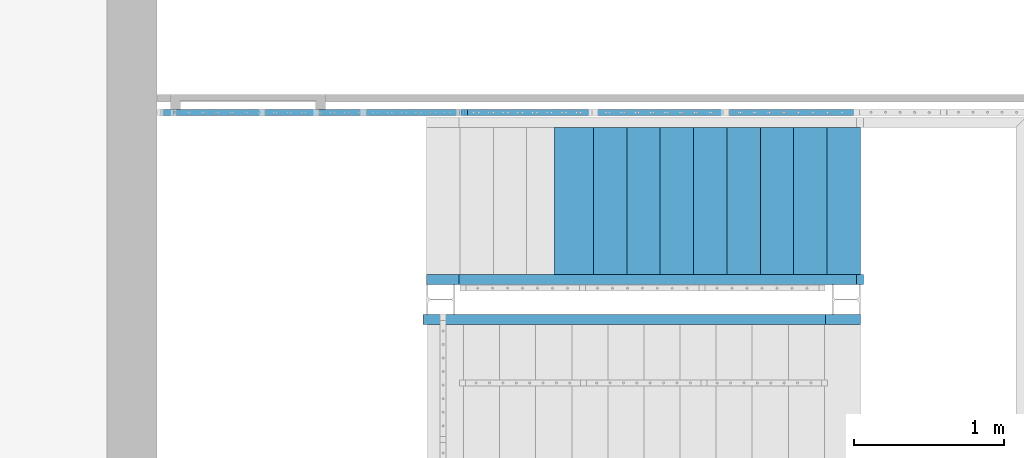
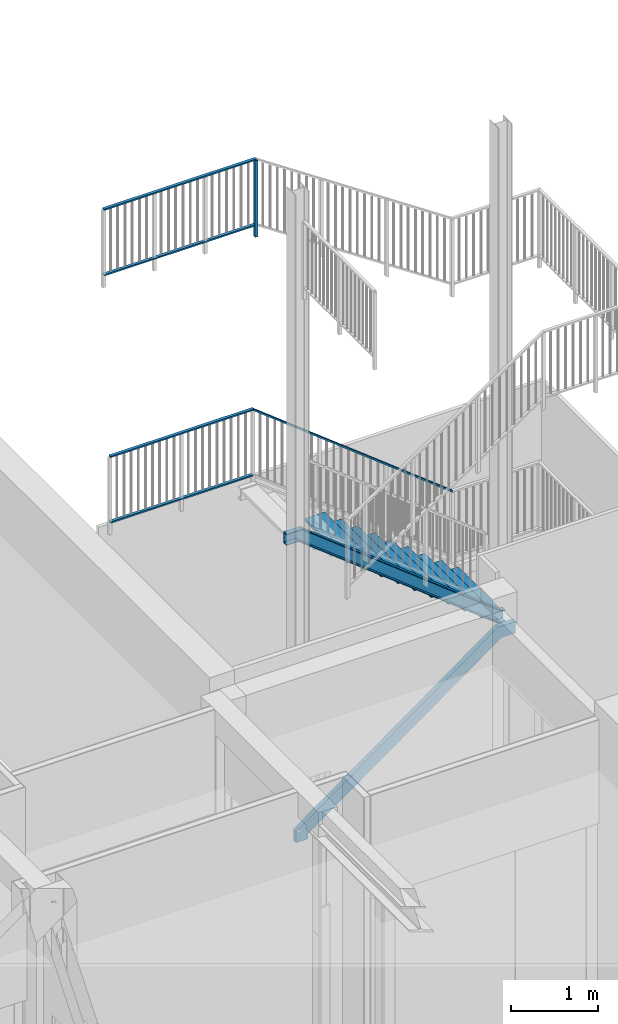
# One storey, part 61 of 135: 17 members, 4 elements without a shape of their own.
"""IFC2X3 building model written with IfcOpenShell, lengths in millimetres."""

from ifc_helpers import new_model, entity, si_unit, converted_unit, derived_unit, money_unit, direction, frame, origin_with_axes, place, context, subcontext, project, spatial, faceted_brep, material, type_object, element, aggregate, save


model = new_model("IFC2X3")

# Units and contexts
model_context = context("Model", 3, precision=0.01, world=origin_with_axes(), true_north=direction((0.0, 1.0)))
body_context = subcontext(model_context, "Body", "Model", "MODEL_VIEW")
ifc_project = project(units=[si_unit("LENGTHUNIT", "METRE", prefix="MILLI"), si_unit("AREAUNIT", "SQUARE_METRE"), si_unit("VOLUMEUNIT", "CUBIC_METRE"), converted_unit("PLANEANGLEUNIT", "DEGREE", entity("IfcPlaneAngleMeasure", 0.0174532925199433), si_unit("PLANEANGLEUNIT", "RADIAN"), dimensions=[0, 0, 0, 0, 0, 0, 0]), money_unit("EUR"), converted_unit("TIMEUNIT", "Year", entity("IfcTimeMeasure", 31557600.0), si_unit("TIMEUNIT", "SECOND"), dimensions=[0, 0, 1, 0, 0, 0, 0]), si_unit("MASSUNIT", "GRAM", prefix="KILO"), si_unit("THERMODYNAMICTEMPERATUREUNIT", "DEGREE_CELSIUS"), si_unit("LUMINOUSINTENSITYUNIT", "LUMEN"), si_unit("ENERGYUNIT", "JOULE", prefix="MEGA"), derived_unit("THERMALCONDUCTANCEUNIT", [(si_unit("POWERUNIT", "WATT"), 1), (si_unit("LENGTHUNIT", "METRE"), -1), (si_unit("THERMODYNAMICTEMPERATUREUNIT", "KELVIN"), -1)]), derived_unit("SPECIFICHEATCAPACITYUNIT", [(si_unit("ENERGYUNIT", "JOULE"), 1), (si_unit("MASSUNIT", "GRAM", prefix="KILO"), -1), (si_unit("THERMODYNAMICTEMPERATUREUNIT", "KELVIN"), -1)]), derived_unit("MASSDENSITYUNIT", [(si_unit("MASSUNIT", "GRAM", prefix="KILO"), 1), (si_unit("VOLUMEUNIT", "CUBIC_METRE"), -1)])], contexts=[model_context])

# Site, building, storey
site_placement = place(None, origin_with_axes())
site = spatial("IfcSite", under=ifc_project, at=site_placement, Name="Site", CompositionType="ELEMENT")
building_placement = place(site_placement, origin_with_axes())
building = spatial("IfcBuilding", under=site, at=building_placement, Name="Naam gebouw", CompositionType="ELEMENT")
storey_placement = place(building_placement, origin_with_axes())
storey = spatial("IfcBuildingStorey", under=building, at=storey_placement, Name="Begane grond N", CompositionType="ELEMENT", Elevation=0.0)

# Railing, member
railing_type = type_object("IfcRailingType", Name="Railing Type", PredefinedType="NOTDEFINED")
railing_1_placement = place(storey_placement, frame((56236.62159597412, 21185.9124251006, 4176.0), z_axis=(0.0, 0.0, 1.0), x_axis=(1.0, 0.0, 0.0)))
railing_1 = element("IfcRailing", 1, at=railing_1_placement, inside=storey, type_object=railing_type, Name="_Reling-x", PredefinedType="NOTDEFINED")
ifc_material = material(Name="Metaal - Staal C")
member_type_1 = type_object("IfcMemberType", Name="IfcMember", PredefinedType="POST")
member_1_placement = place(railing_1_placement, frame((140.3928651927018, 2465.000000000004, 3386.724729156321), z_axis=(0.0, 0.0, 1.0), x_axis=(1.0, 0.0, 0.0)))
member_1 = element("IfcMember", 2, at=member_1_placement, type_object=member_type_1, material=ifc_material, Name="_Hoofdbaluster-x", ObjectType="POST", context=body_context, shape_type="Brep", body=[
    faceted_brep([(-20.00000000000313, 19.99999999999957, 6.090823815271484), (-20.00000000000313, -19.99999999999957, 6.090823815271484), (-20.00000000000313, -19.99999999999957, 1086.090823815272), (-20.00000000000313, 19.99999999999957, 1086.090823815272), (20.00000000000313, 19.99999999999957, -6.090823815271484), (20.00000000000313, -19.99999999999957, -6.090823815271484), (20.00000000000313, -19.99999999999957, 1073.909176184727), (20.00000000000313, 19.99999999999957, 1073.909176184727)], [[[0, 1, 2, 3]], [[0, 4, 5, 1]], [[1, 5, 6, 2]], [[3, 2, 6, 7]], [[4, 0, 3, 7]], [[5, 4, 7, 6]]]),
])

# Railing, members
railing_2_placement = place(storey_placement, frame((56236.62159597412, 21185.9124251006, 157.4646725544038), z_axis=(0.0, 0.0, 1.0), x_axis=(1.0, 0.0, 0.0)))
railing_2 = element("IfcRailing", 3, at=railing_2_placement, inside=storey, type_object=railing_type, Name="_Reling-x", PredefinedType="NOTDEFINED")
member_type_2 = type_object("IfcMemberType", Name="IfcMember", PredefinedType="USERDEFINED")
member_2_placement = place(railing_2_placement, frame((1425.16642625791, 2465.000000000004, 2901.924667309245), z_axis=(0.0, 0.0, 1.0), x_axis=(1.0, 0.0, 0.0)))
member_2 = element("IfcMember", 4, at=member_2_placement, type_object=member_type_2, material=ifc_material, Name="_Bovenregel-x", context=body_context, shape_type="Brep", body=[
    faceted_brep([(1323.187295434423, 19.99999999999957, 28.28427124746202), (1316.281394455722, 19.99999999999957, 8.284271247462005), (-1330.093196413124, 19.99999999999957, 2083.238379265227), (-1323.187295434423, 19.99999999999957, 2103.238379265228), (1323.187295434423, -19.99999999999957, 28.28427124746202), (1316.281394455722, -19.99999999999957, 8.284271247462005), (-1330.093196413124, -19.99999999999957, 2083.238379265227), (-1323.187295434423, -19.99999999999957, 2103.238379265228)], [[[0, 1, 2, 3]], [[0, 4, 5, 1]], [[1, 5, 6, 2]], [[3, 2, 6, 7]], [[4, 0, 3, 7]], [[5, 4, 7, 6]]]),
])
member_3_placement = place(railing_2_placement, frame((-847.1114700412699, 2465.000000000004, 4976.878775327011), z_axis=(0.0, 0.0, 1.0), x_axis=(1.0, 0.0, 0.0)))
member_3 = element("IfcMember", 5, at=member_3_placement, type_object=member_type_2, material=ifc_material, Name="_Bovenregel-x", context=body_context, shape_type="Brep", body=[
    faceted_brep([(949.0906008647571, 19.99999999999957, 28.28427124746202), (942.1846998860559, 19.99999999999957, 8.284271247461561), (-949.09060086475, 19.99999999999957, 8.284271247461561), (-949.09060086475, 19.99999999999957, 28.28427124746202), (949.0906008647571, -19.99999999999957, 28.28427124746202), (942.1846998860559, -19.99999999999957, 8.284271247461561), (-949.09060086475, -19.99999999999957, 8.284271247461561), (-949.09060086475, -19.99999999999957, 28.28427124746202)], [[[0, 1, 2, 3]], [[0, 4, 5, 1]], [[1, 5, 6, 2]], [[3, 2, 6, 7]], [[4, 0, 3, 7]], [[5, 4, 7, 6]]]),
])
member_4_placement = place(railing_2_placement, frame((-847.1114700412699, 2465.000000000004, 4052.802366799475), z_axis=(0.0, 0.0, 1.0), x_axis=(1.0, 0.0, 0.0)))
member_4 = element("IfcMember", 6, at=member_4_placement, type_object=member_type_2, material=ifc_material, Name="_Regel-x", context=body_context, shape_type="Brep", body=[
    faceted_brep([(952.543551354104, 19.99999999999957, 32.36067977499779), (945.63765037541, 19.99999999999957, 12.36067977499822), (-949.09060086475, 19.99999999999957, 12.36067977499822), (-949.09060086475, 19.99999999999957, 32.36067977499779), (952.543551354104, -19.99999999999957, 32.36067977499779), (945.63765037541, -19.99999999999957, 12.36067977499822), (-949.09060086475, -19.99999999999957, 12.36067977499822), (-949.09060086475, -19.99999999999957, 32.36067977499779)], [[[0, 1, 2, 3]], [[0, 4, 5, 1]], [[1, 5, 6, 2]], [[3, 2, 6, 7]], [[4, 0, 3, 7]], [[5, 4, 7, 6]]]),
])
aggregate(railing_2, [member_2, member_3, member_4])

# Member
member_5_placement = place(railing_1_placement, frame((-870.7132766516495, 2465.000000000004, 4458.31572875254), z_axis=(0.0, 0.0, 1.0), x_axis=(1.0, 0.0, 0.0)))
member_5 = element("IfcMember", 7, at=member_5_placement, type_object=member_type_2, material=ifc_material, Name="_Bovenregel-x", context=body_context, shape_type="Brep", body=[
    faceted_brep([(1011.106141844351, 19.99999999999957, 28.40900040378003), (1005.015203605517, 19.99999999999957, 8.40862467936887), (-1011.10490825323, 19.99999999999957, 8.284271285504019), (-1011.106141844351, 19.99999999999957, 28.28427124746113), (1011.106141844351, -19.99999999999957, 28.40900040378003), (1005.015203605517, -19.99999999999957, 8.40862467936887), (-1011.10490825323, -19.99999999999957, 8.284271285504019), (-1011.106141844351, -19.99999999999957, 28.28427124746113)], [[[0, 1, 2, 3]], [[0, 4, 5, 1]], [[1, 5, 6, 2]], [[3, 2, 6, 7]], [[4, 0, 3, 7]], [[5, 4, 7, 6]]]),
])

member_6_placement = place(railing_1_placement, frame((-870.7132766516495, 2465.000000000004, 3534.239320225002), z_axis=(0.0, 0.0, 1.0), x_axis=(1.0, 0.0, 0.0)))
member_6 = element("IfcMember", 8, at=member_6_placement, type_object=member_type_2, material=ifc_material, Name="_Regel-x", context=body_context, shape_type="Brep", body=[
    faceted_brep([(1014.151610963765, 19.99999999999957, 32.48559679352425), (1008.060672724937, 19.99999999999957, 12.48522106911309), (-1011.105525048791, 19.99999999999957, 12.36067979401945), (-1011.106758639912, 19.99999999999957, 32.36067975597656), (1014.151610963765, -19.99999999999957, 32.48559679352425), (1008.060672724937, -19.99999999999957, 12.48522106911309), (-1011.105525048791, -19.99999999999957, 12.36067979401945), (-1011.106758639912, -19.99999999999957, 32.36067975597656)], [[[0, 1, 2, 3]], [[0, 4, 5, 1]], [[1, 5, 6, 2]], [[3, 2, 6, 7]], [[4, 0, 3, 7]], [[5, 4, 7, 6]]]),
])

aggregate(railing_1, [member_1, member_5, member_6])

# Stair, member
stair_1_placement = place(storey_placement, frame((56130.0, 22240.9124251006, 0.0), z_axis=(0.0, 0.0, 1.0), x_axis=(-1.0, 0.0, 0.0)))
stair_1 = element("IfcStair", 9, at=stair_1_placement, inside=storey, Name="_Trap-x", ShapeType="NOTDEFINED")
member_type_3 = type_object("IfcMemberType", Name="IfcMember", PredefinedType="NOTDEFINED")
member_7_placement = place(stair_1_placement, origin_with_axes())
member_7 = element("IfcMember", 10, at=member_7_placement, type_object=member_type_3, material=ifc_material, Name="_Trapconstructie-x", context=body_context, shape_type="Brep", body=[
    faceted_brep([(-130.0000000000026, -65.00000000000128, 0.0), (-130.0000000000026, -65.00000000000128, 75.53959525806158), (-130.0000000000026, 0.0, 75.53959525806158), (-130.0000000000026, 0.0, 0.0), (-119.5000000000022, -65.00000000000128, 0.0), (-119.5000000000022, -65.00000000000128, 80.91592845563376), (-90.6074891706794, -65.00000000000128, 47.15783832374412), (-90.6074891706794, 0.0, 47.15783832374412), (30.00000000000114, 0.0, 157.4646725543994), (30.00000000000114, 0.0, 0.0), (30.00000000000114, -65.00000000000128, 0.0), (19.50000000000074, -65.00000000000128, 0.0), (19.50000000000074, -7.500000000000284, 0.0), (-119.5000000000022, -7.500000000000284, 0.0), (-119.5000000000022, -7.500000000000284, 80.91592845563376), (-84.46956248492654, -65.00000000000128, 55.67698475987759), (-330.6074891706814, -65.00000000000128, 220.0745049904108), (-330.6074891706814, 0.0, 220.0745049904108), (2.922822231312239, 0.0, 176.9734030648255), (30.00000000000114, -65.00000000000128, 157.4646725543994), (19.50000000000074, -65.00000000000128, 152.0883393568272), (19.50000000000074, -7.500000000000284, 152.0883393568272), (-84.46956248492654, -7.500000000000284, 55.67698475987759), (-324.4695624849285, -65.00000000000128, 228.5936514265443), (-570.6074891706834, -65.00000000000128, 392.9911716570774), (-570.6074891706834, 0.0, 392.9911716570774), (-237.0771777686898, 0.0, 349.8900697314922), (2.922822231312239, -65.00000000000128, 176.9734030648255), (-3.21510445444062, -65.00000000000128, 168.454256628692), (-3.21510445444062, -7.500000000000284, 168.454256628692), (-324.4695624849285, -7.500000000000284, 228.5936514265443), (-564.4695624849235, -65.00000000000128, 401.5103180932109), (-810.6074891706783, -65.00000000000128, 565.9078383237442), (-810.6074891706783, 0.0, 565.9078383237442), (-477.0771777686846, 0.0, 522.8067363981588), (-237.0771777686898, -65.00000000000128, 349.8900697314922), (-243.2151044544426, -65.00000000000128, 341.3709232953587), (-243.2151044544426, -7.500000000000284, 341.3709232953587), (-564.4695624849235, -7.500000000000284, 401.5103180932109), (-804.4695624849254, -65.00000000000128, 574.4269847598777), (-1050.60748917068, -65.00000000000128, 738.8245049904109), (-1050.60748917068, 0.0, 738.8245049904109), (-717.0771777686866, 0.0, 695.7234030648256), (-477.0771777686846, -65.00000000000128, 522.8067363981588), (-483.2151044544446, -65.00000000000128, 514.2875899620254), (-483.2151044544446, -7.500000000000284, 514.2875899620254), (-804.4695624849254, -7.500000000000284, 574.4269847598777), (-1044.46956248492, -65.00000000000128, 747.3436514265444), (-1290.607489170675, -65.00000000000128, 911.7411716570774), (-1290.607489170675, 0.0, 911.7411716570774), (-957.0771777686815, 0.0, 868.6400697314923), (-717.0771777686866, -65.00000000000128, 695.7234030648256), (-723.2151044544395, -65.00000000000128, 687.2042566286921), (-723.2151044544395, -7.500000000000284, 687.2042566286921), (-1044.46956248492, -7.500000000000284, 747.3436514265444), (-1284.469562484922, -65.00000000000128, 920.2603180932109), (-1530.607489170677, -65.00000000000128, 1084.657838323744), (-1530.607489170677, 0.0, 1084.657838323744), (-1197.077177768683, 0.0, 1041.556736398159), (-957.0771777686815, -65.00000000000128, 868.6400697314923), (-963.2151044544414, -65.00000000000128, 860.1209232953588), (-963.2151044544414, -7.500000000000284, 860.1209232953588), (-1284.469562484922, -7.500000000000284, 920.2603180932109), (-1524.469562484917, -65.00000000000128, 1093.176984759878), (-1770.607489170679, -65.00000000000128, 1257.574504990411), (-1770.607489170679, 0.0, 1257.574504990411), (-1437.077177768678, 0.0, 1214.473403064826), (-1197.077177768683, -65.00000000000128, 1041.556736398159), (-1203.215104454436, -65.00000000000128, 1033.037589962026), (-1203.215104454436, -7.500000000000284, 1033.037589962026), (-1524.469562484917, -7.500000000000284, 1093.176984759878), (-1764.469562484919, -65.00000000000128, 1266.093651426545), (-2010.607489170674, -65.00000000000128, 1430.491171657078), (-2010.607489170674, 0.0, 1430.491171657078), (-1677.07717776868, 0.0, 1387.390069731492), (-1437.077177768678, -65.00000000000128, 1214.473403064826), (-1443.215104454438, -65.00000000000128, 1205.954256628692), (-1443.215104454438, -7.500000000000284, 1205.954256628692), (-1764.469562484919, -7.500000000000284, 1266.093651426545), (-2004.469562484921, -65.00000000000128, 1439.010318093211), (-2250.607489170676, -65.00000000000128, 1603.407838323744), (-2250.607489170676, 0.0, 1603.407838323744), (-1917.077177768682, 0.0, 1560.306736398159), (-1677.07717776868, -65.00000000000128, 1387.390069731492), (-1683.215104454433, -65.00000000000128, 1378.870923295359), (-1683.215104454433, -7.500000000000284, 1378.870923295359), (-2004.469562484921, -7.500000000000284, 1439.010318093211), (-2244.469562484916, -65.00000000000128, 1611.926984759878), (-2490.607489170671, -65.00000000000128, 1776.324504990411), (-2490.607489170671, 0.0, 1776.324504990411), (-2157.077177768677, 0.0, 1733.223403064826), (-1917.077177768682, -65.00000000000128, 1560.306736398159), (-1923.215104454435, -65.00000000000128, 1551.787589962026), (-1923.215104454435, -7.500000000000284, 1551.787589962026), (-2244.469562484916, -7.500000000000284, 1611.926984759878), (-2484.469562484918, -65.00000000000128, 1784.843651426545), (-2700.709381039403, -65.00000000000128, 1927.7), (-2700.709381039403, 0.0, 1927.7), (-2397.077177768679, 0.0, 1906.140069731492), (-2157.077177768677, -65.00000000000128, 1733.223403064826), (-2163.215104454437, -65.00000000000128, 1724.704256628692), (-2163.215104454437, -7.500000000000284, 1724.704256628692), (-2484.469562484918, -7.500000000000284, 1784.843651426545), (-2697.320783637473, -65.00000000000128, 1938.2), (-2879.999999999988, -65.00000000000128, 1927.7), (-2879.999999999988, 0.0, 1927.7), (-2649.073611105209, 0.0, 2087.7), (-2397.077177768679, -65.00000000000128, 1906.140069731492), (-2403.215104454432, -65.00000000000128, 1897.620923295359), (-2403.215104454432, -7.500000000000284, 1897.620923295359), (-2697.320783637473, -7.500000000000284, 1938.2), (-2879.999999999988, -65.00000000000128, 1938.2), (-2879.999999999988, -7.500000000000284, 1938.2), (-2879.999999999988, -7.500000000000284, 2077.2), (-2879.999999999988, -65.00000000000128, 2077.2), (-2879.999999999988, -65.00000000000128, 2087.7), (-2879.999999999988, 0.0, 2087.7), (-2649.073611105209, -65.00000000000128, 2087.7), (-2652.462208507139, -65.00000000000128, 2077.2), (-2652.462208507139, -7.500000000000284, 2077.2)], [[[0, 1, 2, 3]], [[4, 5, 1, 0]], [[2, 1, 6, 7]], [[3, 2, 8, 9]], [[3, 9, 10, 11, 12, 13, 4, 0]], [[13, 14, 5, 4]], [[1, 5, 15, 6]], [[7, 6, 16, 17]], [[8, 2, 7, 18]], [[9, 8, 19, 10]], [[10, 19, 20, 11]], [[11, 20, 21, 12]], [[12, 21, 14, 13]], [[5, 14, 22, 15]], [[6, 15, 23, 16]], [[17, 16, 24, 25]], [[18, 7, 17, 26]], [[19, 8, 18, 27]], [[20, 19, 27, 28]], [[21, 20, 28, 29]], [[14, 21, 29, 22]], [[15, 22, 30, 23]], [[16, 23, 31, 24]], [[25, 24, 32, 33]], [[26, 17, 25, 34]], [[27, 18, 26, 35]], [[28, 27, 35, 36]], [[29, 28, 36, 37]], [[22, 29, 37, 30]], [[23, 30, 38, 31]], [[24, 31, 39, 32]], [[33, 32, 40, 41]], [[34, 25, 33, 42]], [[35, 26, 34, 43]], [[36, 35, 43, 44]], [[37, 36, 44, 45]], [[30, 37, 45, 38]], [[31, 38, 46, 39]], [[32, 39, 47, 40]], [[41, 40, 48, 49]], [[42, 33, 41, 50]], [[43, 34, 42, 51]], [[44, 43, 51, 52]], [[45, 44, 52, 53]], [[38, 45, 53, 46]], [[39, 46, 54, 47]], [[40, 47, 55, 48]], [[49, 48, 56, 57]], [[50, 41, 49, 58]], [[51, 42, 50, 59]], [[52, 51, 59, 60]], [[53, 52, 60, 61]], [[46, 53, 61, 54]], [[47, 54, 62, 55]], [[48, 55, 63, 56]], [[57, 56, 64, 65]], [[58, 49, 57, 66]], [[59, 50, 58, 67]], [[60, 59, 67, 68]], [[61, 60, 68, 69]], [[54, 61, 69, 62]], [[55, 62, 70, 63]], [[56, 63, 71, 64]], [[65, 64, 72, 73]], [[66, 57, 65, 74]], [[67, 58, 66, 75]], [[68, 67, 75, 76]], [[69, 68, 76, 77]], [[62, 69, 77, 70]], [[63, 70, 78, 71]], [[64, 71, 79, 72]], [[73, 72, 80, 81]], [[74, 65, 73, 82]], [[75, 66, 74, 83]], [[76, 75, 83, 84]], [[77, 76, 84, 85]], [[70, 77, 85, 78]], [[71, 78, 86, 79]], [[72, 79, 87, 80]], [[81, 80, 88, 89]], [[82, 73, 81, 90]], [[83, 74, 82, 91]], [[84, 83, 91, 92]], [[85, 84, 92, 93]], [[78, 85, 93, 86]], [[79, 86, 94, 87]], [[80, 87, 95, 88]], [[89, 88, 96, 97]], [[90, 81, 89, 98]], [[91, 82, 90, 99]], [[92, 91, 99, 100]], [[93, 92, 100, 101]], [[86, 93, 101, 94]], [[87, 94, 102, 95]], [[88, 95, 103, 96]], [[97, 96, 104, 105]], [[98, 89, 97, 106]], [[99, 90, 98, 107]], [[100, 99, 107, 108]], [[101, 100, 108, 109]], [[94, 101, 109, 102]], [[95, 102, 110, 103]], [[96, 103, 111, 104]], [[105, 104, 111, 112, 113, 114, 115, 116]], [[106, 97, 105, 116]], [[107, 98, 106, 117]], [[108, 107, 117, 118]], [[109, 108, 118, 119]], [[102, 109, 119, 110]], [[103, 110, 112, 111]], [[110, 119, 113, 112]], [[119, 118, 114, 113]], [[118, 117, 115, 114]], [[117, 106, 116, 115]]]),
])
aggregate(stair_1, [member_7])

# Stair, members
stair_2_placement = place(storey_placement, frame((59009.99999999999, 22570.91242510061, 1887.673611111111), z_axis=(0.0, 0.0, 1.0), x_axis=(1.0, 0.0, 0.0)))
stair_2 = element("IfcStair", 11, at=stair_2_placement, inside=storey, Name="_Trap-x", ShapeType="NOTDEFINED")
member_8_placement = place(stair_2_placement, origin_with_axes())
member_8 = element("IfcMember", 12, at=member_8_placement, type_object=member_type_3, material=ifc_material, Name="_Trapconstructie-x", context=body_context, shape_type="Brep", body=[
    faceted_brep([(20.00000000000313, 0.0, 39.99999999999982), (20.00000000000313, -65.00000000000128, 39.99999999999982), (-80.27189016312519, -65.00000000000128, 39.99999999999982), (-80.27189016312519, 0.0, 39.99999999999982), (20.00000000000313, 0.0, 199.9999999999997), (20.00000000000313, -65.00000000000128, 199.9999999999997), (20.00000000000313, -65.00000000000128, 189.4999999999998), (20.00000000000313, -7.500000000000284, 189.4999999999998), (20.00000000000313, -7.500000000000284, 50.49999999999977), (20.00000000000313, -65.00000000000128, 50.49999999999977), (-76.64629214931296, -65.00000000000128, 50.49999999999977), (-311.1096441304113, -65.00000000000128, 234.336671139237), (-533.0594304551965, -65.00000000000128, 408.3617779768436), (-755.0092167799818, -65.00000000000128, 582.3868848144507), (-976.959003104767, -65.00000000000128, 756.4119916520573), (-1198.908789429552, -65.00000000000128, 930.4370984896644), (-1420.858575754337, -65.00000000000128, 1104.462205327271), (-1642.808362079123, -65.00000000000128, 1278.487312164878), (-1864.758148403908, -65.00000000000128, 1452.512419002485), (-2086.7079347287, -65.00000000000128, 1626.537525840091), (-2308.657721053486, -65.00000000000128, 1800.562632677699), (-2530.607507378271, -65.00000000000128, 1974.587739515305), (-2723.113069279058, -65.00000000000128, 2125.526388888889), (-2885.347222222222, -65.00000000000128, 2125.526388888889), (-2885.347222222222, -65.00000000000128, 2115.026388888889), (-2726.738667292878, -65.00000000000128, 2115.026388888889), (-2537.086251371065, -65.00000000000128, 1966.324817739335), (-2315.13646504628, -65.00000000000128, 1792.299710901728), (-2093.186678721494, -65.00000000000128, 1618.274604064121), (-1871.236892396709, -65.00000000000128, 1444.249497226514), (-1649.287106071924, -65.00000000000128, 1270.224390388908), (-1427.337319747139, -65.00000000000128, 1096.199283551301), (-1205.387533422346, -65.00000000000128, 922.1741767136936), (-983.437747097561, -65.00000000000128, 748.1490698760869), (-761.4879607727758, -65.00000000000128, 574.1239630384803), (-539.5381744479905, -65.00000000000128, 400.0988562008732), (-317.5883881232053, -65.00000000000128, 226.0737493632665), (-2726.738667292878, 0.0, 2115.026388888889), (-2537.086251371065, 0.0, 1966.324817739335), (-2315.13646504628, 0.0, 1792.299710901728), (-2093.186678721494, 0.0, 1618.274604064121), (-1871.236892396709, 0.0, 1444.249497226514), (-1649.287106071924, 0.0, 1270.224390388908), (-1427.337319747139, 0.0, 1096.199283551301), (-1205.387533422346, 0.0, 922.1741767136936), (-983.437747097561, 0.0, 748.1490698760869), (-761.4879607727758, 0.0, 574.1239630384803), (-539.5381744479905, 0.0, 400.0988562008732), (-317.5883881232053, 0.0, 226.0737493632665), (-2885.347222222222, 0.0, 2115.026388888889), (-2885.347222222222, 0.0, 2275.026388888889), (-2671.49145946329, 0.0, 2275.026388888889), (-2438.3625333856, 0.0, 2092.236006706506), (-2216.412747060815, 0.0, 1918.210899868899), (-1994.46296073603, 0.0, 1744.185793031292), (-1772.513174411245, 0.0, 1570.160686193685), (-1550.563388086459, 0.0, 1396.135579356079), (-1328.613601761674, 0.0, 1222.110472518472), (-1106.663815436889, 0.0, 1048.085365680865), (-884.7140291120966, 0.0, 874.060258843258), (-662.7642427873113, 0.0, 700.0351520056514), (-440.814456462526, 0.0, 526.0100451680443), (-218.8646701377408, 0.0, 351.9849383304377), (-25.02468233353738, 0.0, 199.9999999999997), (-25.02468233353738, -65.00000000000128, 199.9999999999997), (-218.8646701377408, -65.00000000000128, 351.9849383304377), (-440.814456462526, -65.00000000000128, 526.0100451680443), (-662.7642427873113, -65.00000000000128, 700.0351520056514), (-884.7140291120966, -65.00000000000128, 874.060258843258), (-1106.663815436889, -65.00000000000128, 1048.085365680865), (-1328.613601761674, -65.00000000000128, 1222.110472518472), (-1550.563388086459, -65.00000000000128, 1396.135579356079), (-1772.513174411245, -65.00000000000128, 1570.160686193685), (-1994.46296073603, -65.00000000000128, 1744.185793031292), (-2216.412747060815, -65.00000000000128, 1918.210899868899), (-2438.3625333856, -65.00000000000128, 2092.236006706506), (-2671.49145946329, -65.00000000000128, 2275.026388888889), (-2885.347222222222, -65.00000000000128, 2275.026388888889), (-2885.347222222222, -65.00000000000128, 2264.526388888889), (-2675.117057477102, -65.00000000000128, 2264.526388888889), (-2444.841277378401, -65.00000000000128, 2083.973084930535), (-2222.891491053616, -65.00000000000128, 1909.947978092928), (-2000.941704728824, -65.00000000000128, 1735.922871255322), (-1778.991918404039, -65.00000000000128, 1561.897764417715), (-1557.042132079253, -65.00000000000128, 1387.872657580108), (-1335.092345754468, -65.00000000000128, 1213.847550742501), (-1113.142559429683, -65.00000000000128, 1039.822443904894), (-891.1927731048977, -65.00000000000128, 865.7973370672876), (-669.2429867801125, -65.00000000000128, 691.7722302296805), (-447.2932004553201, -65.00000000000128, 517.7471233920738), (-225.3434141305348, -65.00000000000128, 343.7220165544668), (-28.65028034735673, -65.00000000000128, 189.4999999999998), (-28.65028034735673, -7.500000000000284, 189.4999999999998), (-225.3434141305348, -7.500000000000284, 343.7220165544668), (-447.2932004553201, -7.500000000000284, 517.7471233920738), (-669.2429867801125, -7.500000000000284, 691.7722302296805), (-891.1927731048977, -7.500000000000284, 865.7973370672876), (-1113.142559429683, -7.500000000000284, 1039.822443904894), (-1335.092345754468, -7.500000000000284, 1213.847550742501), (-1557.042132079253, -7.500000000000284, 1387.872657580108), (-1778.991918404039, -7.500000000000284, 1561.897764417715), (-2000.941704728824, -7.500000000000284, 1735.922871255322), (-2222.891491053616, -7.500000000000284, 1909.947978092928), (-2444.841277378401, -7.500000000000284, 2083.973084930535), (-2675.117057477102, -7.500000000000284, 2264.526388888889), (-2885.347222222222, -7.500000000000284, 2264.526388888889), (-2885.347222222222, -7.500000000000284, 2125.526388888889), (-2723.113069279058, -7.500000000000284, 2125.526388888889), (-2530.607507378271, -7.500000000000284, 1974.587739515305), (-2308.657721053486, -7.500000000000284, 1800.562632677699), (-2086.7079347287, -7.500000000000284, 1626.537525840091), (-1864.758148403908, -7.500000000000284, 1452.512419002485), (-1642.808362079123, -7.500000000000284, 1278.487312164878), (-1420.858575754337, -7.500000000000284, 1104.462205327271), (-1198.908789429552, -7.500000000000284, 930.4370984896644), (-976.959003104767, -7.500000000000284, 756.4119916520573), (-755.0092167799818, -7.500000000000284, 582.3868848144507), (-533.0594304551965, -7.500000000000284, 408.3617779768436), (-311.1096441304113, -7.500000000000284, 234.336671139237), (-76.64629214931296, -7.500000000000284, 50.49999999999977)], [[[0, 1, 2, 3]], [[0, 4, 5, 6, 7, 8, 9, 1]], [[1, 9, 10, 11, 12, 13, 14, 15, 16, 17, 18, 19, 20, 21, 22, 23, 24, 25, 26, 27, 28, 29, 30, 31, 32, 33, 34, 35, 36, 2]], [[3, 2, 36, 35, 34, 33, 32, 31, 30, 29, 28, 27, 26, 25, 37, 38, 39, 40, 41, 42, 43, 44, 45, 46, 47, 48]], [[4, 0, 3, 48, 47, 46, 45, 44, 43, 42, 41, 40, 39, 38, 37, 49, 50, 51, 52, 53, 54, 55, 56, 57, 58, 59, 60, 61, 62, 63]], [[5, 4, 63, 64]], [[6, 5, 64, 65, 66, 67, 68, 69, 70, 71, 72, 73, 74, 75, 76, 77, 78, 79, 80, 81, 82, 83, 84, 85, 86, 87, 88, 89, 90, 91]], [[7, 6, 91, 92]], [[8, 7, 92, 93, 94, 95, 96, 97, 98, 99, 100, 101, 102, 103, 104, 105, 106, 107, 108, 109, 110, 111, 112, 113, 114, 115, 116, 117, 118, 119]], [[9, 8, 119, 10]], [[10, 119, 118, 117, 116, 115, 114, 113, 112, 111, 110, 109, 108, 107, 22, 21, 20, 19, 18, 17, 16, 15, 14, 13, 12, 11]], [[22, 107, 106, 23]], [[49, 24, 23, 106, 105, 78, 77, 50]], [[37, 25, 24, 49]], [[76, 51, 50, 77]], [[64, 63, 62, 61, 60, 59, 58, 57, 56, 55, 54, 53, 52, 51, 76, 75, 74, 73, 72, 71, 70, 69, 68, 67, 66, 65]], [[104, 79, 78, 105]], [[92, 91, 90, 89, 88, 87, 86, 85, 84, 83, 82, 81, 80, 79, 104, 103, 102, 101, 100, 99, 98, 97, 96, 95, 94, 93]]]),
])
member_type_4 = type_object("IfcMemberType", Name="IfcMember", PredefinedType="USERDEFINED")
member_9_placement = place(stair_2_placement, frame((0.0, 489.9999999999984, 174.0251068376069), z_axis=(0.0, 0.0, 1.0), x_axis=(0.0, 1.0, 0.0)))
member_9 = element("IfcMember", 13, at=member_9_placement, type_object=member_type_4, material=ifc_material, Name="_Traptrede-x", context=body_context, shape_type="Brep", body=[
    faceted_brep([(-490.0, 0.0, -38.0), (490.0, 0.0, -38.0), (490.0, 0.0, 0.0), (-490.0, 0.0, 0.0), (-490.0, 261.9497863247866, -38.0), (490.0, 261.9497863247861, -38.0), (490.0, 261.9497863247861, 0.0), (-490.0, 261.9497863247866, 0.0)], [[[0, 1, 2, 3]], [[0, 4, 5, 1]], [[1, 5, 6, 2]], [[3, 2, 6, 7]], [[4, 0, 3, 7]], [[5, 4, 7, 6]]]),
])
member_10_placement = place(stair_2_placement, frame((-221.9497863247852, 489.9999999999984, 348.0502136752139), z_axis=(0.0, 0.0, 1.0), x_axis=(0.0, 1.0, 0.0)))
member_10 = element("IfcMember", 14, at=member_10_placement, type_object=member_type_4, material=ifc_material, Name="_Traptrede-x", context=body_context, shape_type="Brep", body=[
    faceted_brep([(-490.0, 0.0, -38.0), (490.0, 0.0, -38.0), (490.0, 0.0, 0.0), (-490.0, 0.0, 0.0), (-490.0, 261.9497863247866, -38.0), (490.0, 261.9497863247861, -38.0), (490.0, 261.9497863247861, 0.0), (-490.0, 261.9497863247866, 0.0)], [[[0, 1, 2, 3]], [[0, 4, 5, 1]], [[1, 5, 6, 2]], [[3, 2, 6, 7]], [[4, 0, 3, 7]], [[5, 4, 7, 6]]]),
])
member_11_placement = place(stair_2_placement, frame((-443.8995726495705, 489.9999999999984, 522.0753205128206), z_axis=(0.0, 0.0, 1.0), x_axis=(0.0, 1.0, 0.0)))
member_11 = element("IfcMember", 15, at=member_11_placement, type_object=member_type_4, material=ifc_material, Name="_Traptrede-x", context=body_context, shape_type="Brep", body=[
    faceted_brep([(-490.0, 0.0, -38.0), (490.0, 0.0, -38.0), (490.0, 0.0, 0.0), (-490.0, 0.0, 0.0), (-490.0, 261.9497863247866, -38.0), (490.0, 261.9497863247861, -38.0), (490.0, 261.9497863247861, 0.0), (-490.0, 261.9497863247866, 0.0)], [[[0, 1, 2, 3]], [[0, 4, 5, 1]], [[1, 5, 6, 2]], [[3, 2, 6, 7]], [[4, 0, 3, 7]], [[5, 4, 7, 6]]]),
])
member_12_placement = place(stair_2_placement, frame((-665.8493589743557, 489.9999999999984, 696.1004273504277), z_axis=(0.0, 0.0, 1.0), x_axis=(0.0, 1.0, 0.0)))
member_12 = element("IfcMember", 16, at=member_12_placement, type_object=member_type_4, material=ifc_material, Name="_Traptrede-x", context=body_context, shape_type="Brep", body=[
    faceted_brep([(-490.0, 0.0, -38.0), (490.0, 0.0, -38.0), (490.0, 0.0, 0.0), (-490.0, 0.0, 0.0), (-490.0, 261.9497863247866, -38.0), (490.0, 261.9497863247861, -38.0), (490.0, 261.9497863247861, 0.0), (-490.0, 261.9497863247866, 0.0)], [[[0, 1, 2, 3]], [[0, 4, 5, 1]], [[1, 5, 6, 2]], [[3, 2, 6, 7]], [[4, 0, 3, 7]], [[5, 4, 7, 6]]]),
])
member_13_placement = place(stair_2_placement, frame((-887.799145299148, 489.9999999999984, 870.1255341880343), z_axis=(0.0, 0.0, 1.0), x_axis=(0.0, 1.0, 0.0)))
member_13 = element("IfcMember", 17, at=member_13_placement, type_object=member_type_4, material=ifc_material, Name="_Traptrede-x", context=body_context, shape_type="Brep", body=[
    faceted_brep([(-490.0, 0.0, -38.0), (490.0, 0.0, -38.0), (490.0, 0.0, 0.0), (-490.0, 0.0, 0.0), (-490.0, 261.9497863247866, -38.0), (490.0, 261.9497863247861, -38.0), (490.0, 261.9497863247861, 0.0), (-490.0, 261.9497863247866, 0.0)], [[[0, 1, 2, 3]], [[0, 4, 5, 1]], [[1, 5, 6, 2]], [[3, 2, 6, 7]], [[4, 0, 3, 7]], [[5, 4, 7, 6]]]),
])
member_14_placement = place(stair_2_placement, frame((-1109.748931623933, 489.9999999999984, 1044.150641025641), z_axis=(0.0, 0.0, 1.0), x_axis=(0.0, 1.0, 0.0)))
member_14 = element("IfcMember", 18, at=member_14_placement, type_object=member_type_4, material=ifc_material, Name="_Traptrede-x", context=body_context, shape_type="Brep", body=[
    faceted_brep([(-490.0, 0.0, -38.0), (490.0, 0.0, -38.0), (490.0, 0.0, 0.0), (-490.0, 0.0, 0.0), (-490.0, 261.9497863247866, -38.0), (490.0, 261.9497863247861, -38.0), (490.0, 261.9497863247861, 0.0), (-490.0, 261.9497863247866, 0.0)], [[[0, 1, 2, 3]], [[0, 4, 5, 1]], [[1, 5, 6, 2]], [[3, 2, 6, 7]], [[4, 0, 3, 7]], [[5, 4, 7, 6]]]),
])
member_15_placement = place(stair_2_placement, frame((-1331.698717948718, 489.9999999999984, 1218.175747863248), z_axis=(0.0, 0.0, 1.0), x_axis=(0.0, 1.0, 0.0)))
member_15 = element("IfcMember", 19, at=member_15_placement, type_object=member_type_4, material=ifc_material, Name="_Traptrede-x", context=body_context, shape_type="Brep", body=[
    faceted_brep([(-490.0, 0.0, -38.0), (490.0, 0.0, -38.0), (490.0, 0.0, 0.0), (-490.0, 0.0, 0.0), (-490.0, 261.9497863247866, -38.0), (490.0, 261.9497863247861, -38.0), (490.0, 261.9497863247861, 0.0), (-490.0, 261.9497863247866, 0.0)], [[[0, 1, 2, 3]], [[0, 4, 5, 1]], [[1, 5, 6, 2]], [[3, 2, 6, 7]], [[4, 0, 3, 7]], [[5, 4, 7, 6]]]),
])
member_16_placement = place(stair_2_placement, frame((-1775.598290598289, 489.9999999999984, 1566.225961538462), z_axis=(0.0, 0.0, 1.0), x_axis=(0.0, 1.0, 0.0)))
member_16 = element("IfcMember", 20, at=member_16_placement, type_object=member_type_4, material=ifc_material, Name="_Traptrede-x", context=body_context, shape_type="Brep", body=[
    faceted_brep([(-490.0, 0.0, -38.0), (490.0, 0.0, -38.0), (490.0, 0.0, 0.0), (-490.0, 0.0, 0.0), (-490.0, 261.9497863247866, -38.0), (490.0, 261.9497863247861, -38.0), (490.0, 261.9497863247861, 0.0), (-490.0, 261.9497863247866, 0.0)], [[[0, 1, 2, 3]], [[0, 4, 5, 1]], [[1, 5, 6, 2]], [[3, 2, 6, 7]], [[4, 0, 3, 7]], [[5, 4, 7, 6]]]),
])
member_17_placement = place(stair_2_placement, frame((-1553.648504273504, 489.9999999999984, 1392.200854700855), z_axis=(0.0, 0.0, 1.0), x_axis=(0.0, 1.0, 0.0)))
member_17 = element("IfcMember", 21, at=member_17_placement, type_object=member_type_4, material=ifc_material, Name="_Traptrede-x", context=body_context, shape_type="Brep", body=[
    faceted_brep([(-490.0, 0.0, -38.0), (490.0, 0.0, -38.0), (490.0, 0.0, 0.0), (-490.0, 0.0, 0.0), (-490.0, 261.9497863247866, -38.0), (490.0, 261.9497863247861, -38.0), (490.0, 261.9497863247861, 0.0), (-490.0, 261.9497863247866, 0.0)], [[[0, 1, 2, 3]], [[0, 4, 5, 1]], [[1, 5, 6, 2]], [[3, 2, 6, 7]], [[4, 0, 3, 7]], [[5, 4, 7, 6]]]),
])
aggregate(stair_2, [member_8, member_9, member_10, member_11, member_12, member_13, member_14, member_15, member_16, member_17])

save(model, "model.ifc")
